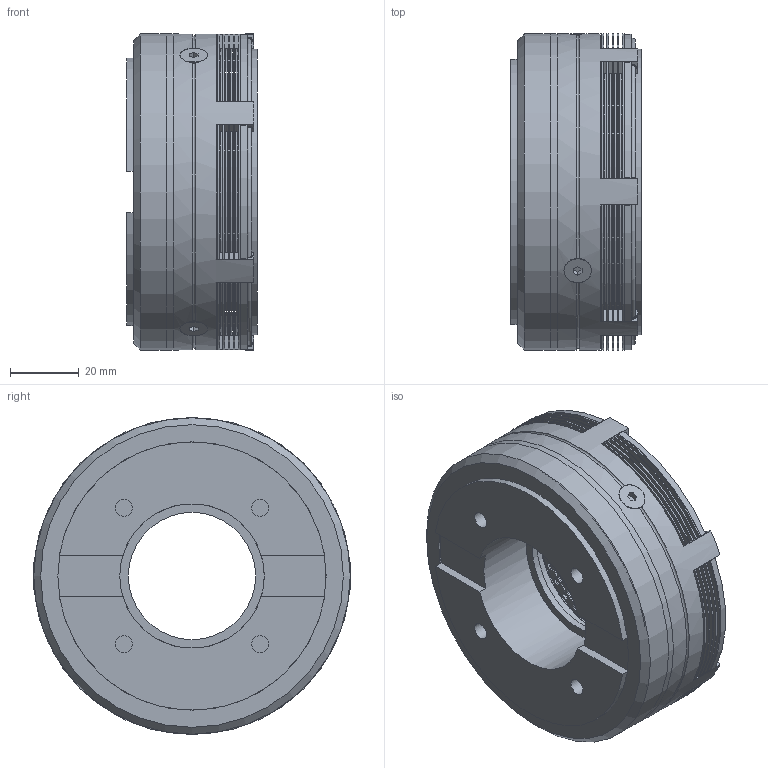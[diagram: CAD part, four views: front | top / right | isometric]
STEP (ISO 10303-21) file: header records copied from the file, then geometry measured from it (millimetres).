
FILE_DESCRIPTION(/* description */ (''),/* implementation_level */ '2;1');
FILE_NAME(/* name */ 'X:\INVENTOR\DISEGNI\05_Friz_Elettmag-Lam\05_02 ECF\05_02_092_01 ECF092\05_02_092_01 ECF092@STEP.stp',/* time_stamp */ '2023-03-03T11:37:35+01:00',/* author */ ('alessio'),/* organization */ (''),/* preprocessor_version */ 'ST-DEVELOPER v18.1',/* originating_system */ 'Autodesk Inventor 2021',/* authorisation */ '');
FILE_SCHEMA (('AUTOMOTIVE_DESIGN { 1 0 10303 214 3 1 1 }'));
Length unit declared in the file: millimetre
Products named in the file (12): 05.02.092.01; C120_050209201 COPPA MAGNETE; C019.050109201 ; C024.050109202; C111.050109201; R311.05.01.092.01; R311.050109201; RESINA ECF092; BOBINA ECF092; C102_050109201; ANELLO DI FERMO; DIN 7991 - M4x10
Assembly tree (20 placements, depth 2):
  05.02.092.01
    C120_050209201 COPPA MAGNETE
    C019.050109201 
    C024.050109202
    C111.050109201
    R311.05.01.092.01  x5
    R311.050109201  x4
    RESINA ECF092
    BOBINA ECF092
    C102_050109201
    ANELLO DI FERMO
    DIN 7991 - M4x10  x3
Bounding box: 38 x 92 x 92 mm (x, y, z)
Volume: 170214.9 mm3; surface area: 164343.9 mm2
Topology: 20 solids, 21 shells, 1037 faces, 2986 edges, 1995 vertices
Faces by surface type: cylinder 771, plane 218, cone 30, torus 18
Full cylindrical faces by diameter (mm): 1.5 x12, 3.242 x3, 4 x3, 4.2 x3, 4.917 x4, 6 x2, 8 x3, 37 x1, 42 x1, 44 x1, 44.5 x5, 46 x1, 57 x2, 58 x2, 72 x2, 73 x4, 78 x1, 81 x2, 82 x1, 83 x1, 83.35 x4, 84 x2, 85 x3, 92 x4
Entity records: 14846 total; most frequent: CARTESIAN_POINT 3356, DIRECTION 2478, ORIENTED_EDGE 2274, EDGE_CURVE 1137, AXIS2_PLACEMENT_3D 1015, VERTEX_POINT 763, CIRCLE 559, EDGE_LOOP 470
